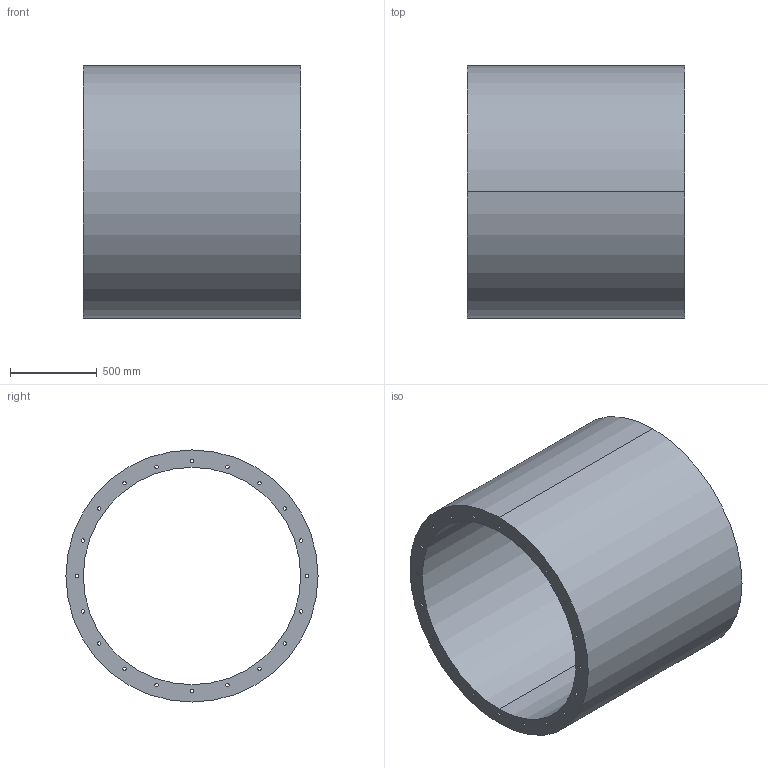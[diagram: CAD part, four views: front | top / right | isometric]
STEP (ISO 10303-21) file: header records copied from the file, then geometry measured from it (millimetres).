
FILE_DESCRIPTION(('STEP AP214'),'1');
FILE_NAME('accessory_5211812900.stp','2017-10-09T11:37:06',('TraceParts'),('TraceParts S.A.'),'Spatial InterOp 3D',' ',' ');
FILE_SCHEMA(('automotive_design'));
Length unit declared in the file: millimetre
Products named in the file (1): accessory_5211812900
Bounding box: 1250 x 1450 x 1450 mm (x, y, z)
Volume: 522289778.7 mm3; surface area: 13009335.2 mm2
Topology: 1 solids, 1 shells, 46 faces, 132 edges, 88 vertices
Faces by surface type: cylinder 44, plane 2
Entity records: 2032 total; most frequent: DIRECTION 314, CARTESIAN_POINT 267, ORIENTED_EDGE 264, AXIS2_PLACEMENT_3D 135, EDGE_CURVE 132, EDGE_LOOP 88, VERTEX_POINT 88, CIRCLE 88
